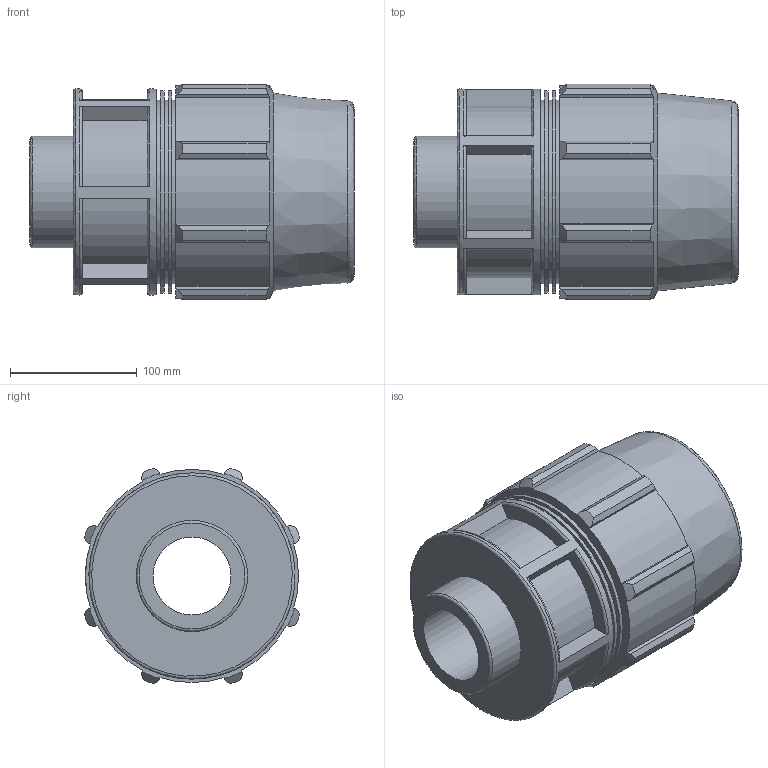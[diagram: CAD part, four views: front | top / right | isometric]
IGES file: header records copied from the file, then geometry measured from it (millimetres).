
Global section: file name: 0702061100300A.ipt; native system: Autodesk Inventor 2015; preprocessor: unknown; author: KIM; date: 20180325.201128; units: millimetre
Bounding box: 256 x 170.31 x 170.31 mm (x, y, z)
Volume: 2261992.3 mm3; surface area: 280594.7 mm2
Topology: 1 solids, 1 shells, 125 faces, 333 edges, 224 vertices
Faces by surface type: plane 67, cylinder 29, revolution 19, cone 10
Full cylindrical faces by diameter (mm): 87.884 x1, 144.8 x3, 159.642 x2, 162.9 x1
